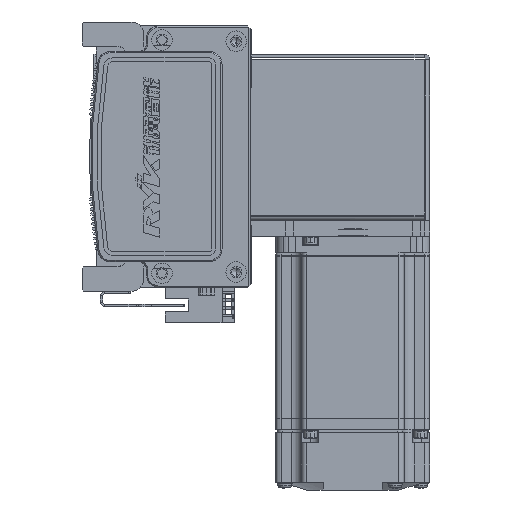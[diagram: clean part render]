
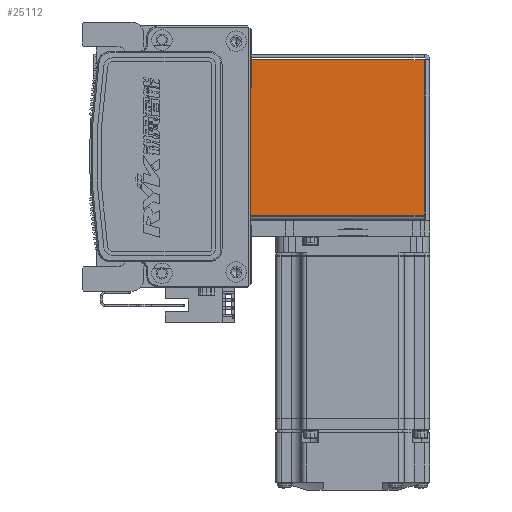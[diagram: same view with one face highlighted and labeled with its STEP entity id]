
A CAD part, left-side view. The second image highlights one B-rep face of the part: STEP entity #25112.
In plain terms, the highlighted planar face has unit normal (-1, 0, 0) as drawn and (0, 0, -1) by its records, which use the part's own axes.
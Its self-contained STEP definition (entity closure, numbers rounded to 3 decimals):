
#671 = CARTESIAN_POINT ( 'NONE',  ( 0., 0., -35. ) ) ;
#1482 = VERTEX_POINT ( 'NONE', #16803 ) ;
#3773 = ORIENTED_EDGE ( 'NONE', *, *, #55987, .T. ) ;
#6293 = ORIENTED_EDGE ( 'NONE', *, *, #51207, .T. ) ;
#7018 = CARTESIAN_POINT ( 'NONE',  ( -30.293, 0.737, -35. ) ) ;
#8268 = FACE_OUTER_BOUND ( 'NONE', #45429, .T. ) ;
#13658 = EDGE_CURVE ( 'NONE', #42816, #27692, #39983, .T. ) ;
#16803 = CARTESIAN_POINT ( 'NONE',  ( 30.263, 72.5, -35. ) ) ;
#17368 = DIRECTION ( 'NONE',  ( 0., -1., 0. ) ) ;
#17436 = VECTOR ( 'NONE', #58166, 1000. ) ;
#20515 = DIRECTION ( 'NONE',  ( 1., 0., 0. ) ) ;
#24401 = LINE ( 'NONE', #42300, #66941 ) ;
#25112 = ADVANCED_FACE ( 'NONE', ( #8268 ), #28286, .F. ) ;
#27692 = VERTEX_POINT ( 'NONE', #46566 ) ;
#28222 = ORIENTED_EDGE ( 'NONE', *, *, #61617, .F. ) ;
#28286 = PLANE ( 'NONE',  #40563 ) ;
#30009 = CARTESIAN_POINT ( 'NONE',  ( 30.263, 72.5, -35. ) ) ;
#36801 = LINE ( 'NONE', #30009, #48058 ) ;
#38313 = DIRECTION ( 'NONE',  ( 1., 0., 0. ) ) ;
#39983 = LINE ( 'NONE', #57932, #17436 ) ;
#40563 = AXIS2_PLACEMENT_3D ( 'NONE', #671, #45026, #17368 ) ;
#42300 = CARTESIAN_POINT ( 'NONE',  ( 0., 72.5, -35. ) ) ;
#42816 = VERTEX_POINT ( 'NONE', #7018 ) ;
#45026 = DIRECTION ( 'NONE',  ( 0., 0., 1. ) ) ;
#45429 = EDGE_LOOP ( 'NONE', ( #6293, #28222, #70934, #3773 ) ) ;
#46566 = CARTESIAN_POINT ( 'NONE',  ( -30.293, 72.5, -35. ) ) ;
#48058 = VECTOR ( 'NONE', #68779, 1000. ) ;
#49841 = VECTOR ( 'NONE', #38313, 1000. ) ;
#51207 = EDGE_CURVE ( 'NONE', #1482, #65864, #36801, .T. ) ;
#55987 = EDGE_CURVE ( 'NONE', #27692, #1482, #24401, .T. ) ;
#56642 = CARTESIAN_POINT ( 'NONE',  ( 30.263, 0.737, -35. ) ) ;
#57932 = CARTESIAN_POINT ( 'NONE',  ( -30.293, 0., -35. ) ) ;
#58166 = DIRECTION ( 'NONE',  ( 0., 1., 0. ) ) ;
#61617 = EDGE_CURVE ( 'NONE', #42816, #65864, #64566, .T. ) ;
#64566 = LINE ( 'NONE', #66868, #49841 ) ;
#65864 = VERTEX_POINT ( 'NONE', #56642 ) ;
#66868 = CARTESIAN_POINT ( 'NONE',  ( 32.5, 0.737, -35. ) ) ;
#66941 = VECTOR ( 'NONE', #20515, 1000. ) ;
#68779 = DIRECTION ( 'NONE',  ( 0., -1., 0. ) ) ;
#70934 = ORIENTED_EDGE ( 'NONE', *, *, #13658, .T. ) ;
